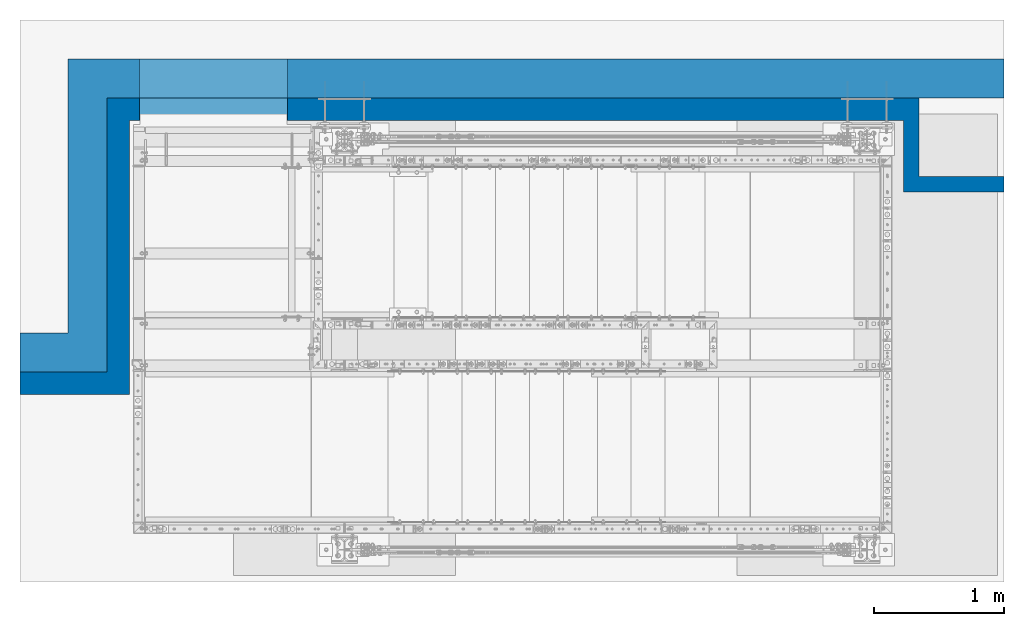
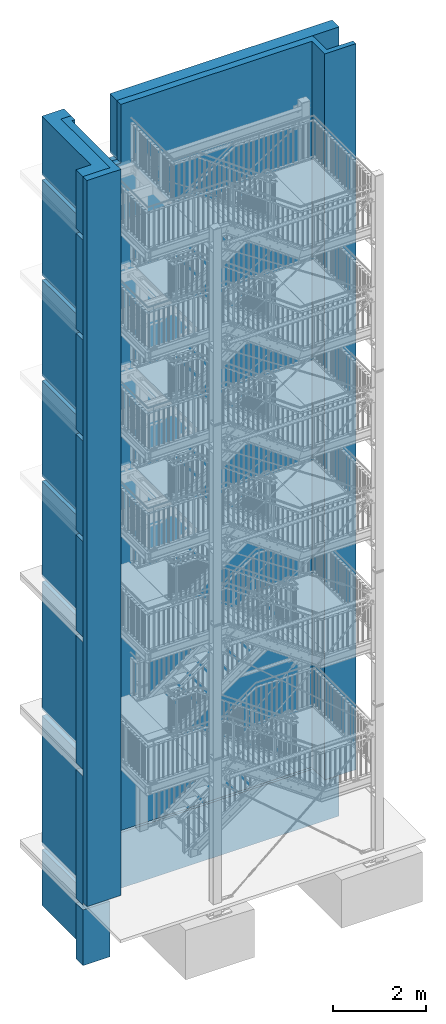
# One storey, part 231 of 825: 9 walls, 34 openings.
"""IFC2X3 building model written with IfcOpenShell, lengths in millimetres."""

from ifc_helpers import new_model, entity, si_unit, converted_unit, frame, origin, origin_with_axes, place, context, project, spatial, polyline, outline, extrude, material, layer, layer_set, element, save


model = new_model("IFC2X3")

# Units and contexts
model_context = context("Model", 3, precision=1e-09, world=origin_with_axes())
ifc_project = project(units=[si_unit("LENGTHUNIT", "METRE", prefix="MILLI"), si_unit("AREAUNIT", "SQUARE_METRE"), si_unit("VOLUMEUNIT", "CUBIC_METRE"), converted_unit("PLANEANGLEUNIT", "DEGREE", entity("IfcPlaneAngleMeasure", 0.01745329), si_unit("PLANEANGLEUNIT", "RADIAN"), dimensions=[0, 0, 0, 0, 0, 0, 0])], contexts=[model_context])

# Site, building, storey
site_placement = place(None, origin_with_axes())
site = spatial("IfcSite", under=ifc_project, at=site_placement, Name="Cnopf'sche Kinderklinik", CompositionType="ELEMENT")
building_placement = place(site_placement, origin_with_axes())
building = spatial("IfcBuilding", under=site, at=building_placement, Name="Struktur 1", CompositionType="ELEMENT")
storey_placement = place(building_placement, origin_with_axes())
storey = spatial("IfcBuildingStorey", under=building, at=storey_placement, Name="Default Storey", CompositionType="ELEMENT", Elevation=0.0)

# Wall, openings
ifc_material = material(Name="C25/30")
ifc_layer_1 = layer(ifc_material, 2272.0)
ifc_layer_set_1 = layer_set([ifc_layer_1], Name="C25/30")
wall_1_placement = place(None, frame((6142.06017303, 7831.735971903, 9870.0), z_axis=(0.0, -1.0, 0.0), x_axis=(1.0, 0.0, 0.0)))
wall_1 = element("IfcWall", 1, at=wall_1_placement, inside=storey, material=ifc_layer_set_1, Name="-", ObjectType="-", context=model_context, shape_type="SweptSolid", body=[
    extrude(outline(polyline([(-3774.653229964, -9500.0), (3774.653229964, -9500.0), (3774.653229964, 9500.0), (-3774.653229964, 9500.0), (-3774.653229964, -9500.0)])), origin_with_axes(), (0.0, 0.0, 1.0), 2272.0),
])
opening_1_placement = place(wall_1_placement, frame((0.0, -9500.1, 1136.0), z_axis=(0.0, 1.0, 0.0), x_axis=(1.0, 0.0, 0.0)))
element("IfcOpeningElement", 2, at=opening_1_placement, cuts=wall_1, ObjectType="Opening", context=model_context, shape_type="SweptSolid", body=[
    extrude(outline(polyline([(-4123.085438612, -964.0), (-3107.346770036, -964.0), (-3107.346770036, 1381.510287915), (-4123.085438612, 1381.510287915), (-4123.085438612, -964.0)])), origin(), (0.0, 0.0, 1.0), 19000.2),
])
opening_2_placement = place(wall_1_placement, frame((0.0, -9500.1, 1136.0), z_axis=(0.0, 1.0, 0.0), x_axis=(1.0, 0.0, 0.0)))
element("IfcOpeningElement", 3, at=opening_2_placement, cuts=wall_1, ObjectType="Opening", context=model_context, shape_type="SweptSolid", body=[
    extrude(outline(polyline([(-2935.347770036, -1467.876166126), (3002.654229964, -1467.876166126), (3002.654229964, 964.005), (-2935.347770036, 964.005), (-2935.347770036, -1467.876166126)])), origin(), (0.0, 0.0, 1.0), 19000.2),
])
opening_3_placement = place(wall_1_placement, frame((0.0, 0.0, -0.1), z_axis=(0.0, 0.0, 1.0), x_axis=(1.0, 0.0, 0.0)))
element("IfcOpeningElement", 4, at=opening_3_placement, cuts=wall_1, ObjectType="Opening", context=model_context, shape_type="SweptSolid", body=[
    extrude(outline(polyline([(-2857.347770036, -9570.001), (-1722.346770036, -9570.001), (-1722.346770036, -7289.999), (-2857.347770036, -7289.999), (-2857.347770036, -9570.001)])), origin(), (0.0, 0.0, 1.0), 2272.2),
])
opening_4_placement = place(wall_1_placement, frame((0.0, 0.0, -0.1), z_axis=(0.0, 0.0, 1.0), x_axis=(1.0, 0.0, 0.0)))
element("IfcOpeningElement", 5, at=opening_4_placement, cuts=wall_1, ObjectType="Opening", context=model_context, shape_type="SweptSolid", body=[
    extrude(outline(polyline([(-2857.347770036, -6023.001), (-1722.346770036, -6023.001), (-1722.346770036, -3762.998), (-2857.347770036, -3762.998), (-2857.347770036, -6023.001)])), origin(), (0.0, 0.0, 1.0), 2272.2),
])
opening_5_placement = place(wall_1_placement, frame((0.0, 0.0, -0.1), z_axis=(0.0, 0.0, 1.0), x_axis=(1.0, 0.0, 0.0)))
element("IfcOpeningElement", 6, at=opening_5_placement, cuts=wall_1, ObjectType="Opening", context=model_context, shape_type="SweptSolid", body=[
    extrude(outline(polyline([(-2857.347770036, -2550.001), (-1722.346770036, -2550.001), (-1722.346770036, -289.998), (-2857.347770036, -289.998), (-2857.347770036, -2550.001)])), origin(), (0.0, 0.0, 1.0), 2272.2),
])
opening_6_placement = place(wall_1_placement, frame((0.0, 0.0, -0.1), z_axis=(0.0, 0.0, 1.0), x_axis=(1.0, 0.0, 0.0)))
element("IfcOpeningElement", 7, at=opening_6_placement, cuts=wall_1, ObjectType="Opening", context=model_context, shape_type="SweptSolid", body=[
    extrude(outline(polyline([(-2857.347770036, 81.999), (-1722.346770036, 81.999), (-1722.346770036, 2342.002), (-2857.347770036, 2342.002), (-2857.347770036, 81.999)])), origin(), (0.0, 0.0, 1.0), 2272.2),
])
opening_7_placement = place(wall_1_placement, frame((0.0, 0.0, -0.1), z_axis=(0.0, 0.0, 1.0), x_axis=(1.0, 0.0, 0.0)))
element("IfcOpeningElement", 8, at=opening_7_placement, cuts=wall_1, ObjectType="Opening", context=model_context, shape_type="SweptSolid", body=[
    extrude(outline(polyline([(-2857.347770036, 2708.999), (-1722.346770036, 2708.999), (-1722.346770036, 4969.002), (-2857.347770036, 4969.002), (-2857.347770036, 2708.999)])), origin(), (0.0, 0.0, 1.0), 2272.2),
])
opening_8_placement = place(wall_1_placement, frame((0.0, 0.0, -0.1), z_axis=(0.0, 0.0, 1.0), x_axis=(1.0, 0.0, 0.0)))
element("IfcOpeningElement", 9, at=opening_8_placement, cuts=wall_1, ObjectType="Opening", context=model_context, shape_type="SweptSolid", body=[
    extrude(outline(polyline([(-2857.347770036, 5343.999), (-1722.346770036, 5343.999), (-1722.346770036, 7604.002), (-2857.347770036, 7604.002), (-2857.347770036, 5343.999)])), origin(), (0.0, 0.0, 1.0), 2272.2),
])
opening_9_placement = place(wall_1_placement, frame((0.0, 0.0, -0.1), z_axis=(0.0, 0.0, 1.0), x_axis=(1.0, 0.0, 0.0)))
element("IfcOpeningElement", 10, at=opening_9_placement, cuts=wall_1, ObjectType="Opening", context=model_context, shape_type="SweptSolid", body=[
    extrude(outline(polyline([(-2857.347770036, 7963.999), (-1722.346770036, 7963.999), (-1722.346770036, 10190.001), (-2857.347770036, 10190.001), (-2857.347770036, 7963.999)])), origin(), (0.0, 0.0, 1.0), 2272.2),
])
opening_10_placement = place(wall_1_placement, frame((0.0, -9500.1, 1136.0), z_axis=(0.0, 1.0, 0.0), x_axis=(1.0, 0.0, 0.0)))
element("IfcOpeningElement", 11, at=opening_10_placement, cuts=wall_1, ObjectType="Opening", context=model_context, shape_type="SweptSolid", body=[
    extrude(outline(polyline([(2960.822495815, -1467.876166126), (4107.704030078, -1467.876166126), (4107.704030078, 416.003), (2960.822495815, 416.003), (2960.822495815, -1467.876166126)])), origin(), (0.0, 0.0, 1.0), 19000.2),
])
opening_11_placement = place(wall_1_placement, frame((0.0, -9500.1, 1136.0), z_axis=(0.0, 1.0, 0.0), x_axis=(1.0, 0.0, 0.0)))
element("IfcOpeningElement", 12, at=opening_11_placement, cuts=wall_1, ObjectType="Opening", context=model_context, shape_type="SweptSolid", body=[
    extrude(outline(polyline([(3122.652229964, 536.0), (3912.658272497, 536.0), (3912.658272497, 1136.003), (3122.652229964, 1136.003), (3122.652229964, 536.0)])), origin(), (0.0, 0.0, 1.0), 19000.2),
])

ifc_layer_2 = layer(ifc_material, 2400.0)
ifc_layer_set_2 = layer_set([ifc_layer_2], Name="C25/30")
wall_2_placement = place(None, frame((6142.06017303, 8131.736971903, 1988.5), z_axis=(0.0, -1.0, 0.0), x_axis=(1.0, 0.0, 0.0)))
wall_2 = element("IfcWall", 13, at=wall_2_placement, inside=storey, material=ifc_layer_set_2, Name="-", ObjectType="-", context=model_context, shape_type="SweptSolid", body=[
    extrude(outline(polyline([(-3774.655, -1688.5), (3774.655, -1688.5), (3774.655, 1688.5), (-3774.655, 1688.5), (-3774.655, -1688.5)])), origin_with_axes(), (0.0, 0.0, 1.0), 2400.0),
])
opening_12_placement = place(wall_2_placement, frame((0.0, -1688.6, 1200.0), z_axis=(0.0, 1.0, 0.0), x_axis=(1.0, 0.0, 0.0)))
element("IfcOpeningElement", 14, at=opening_12_placement, cuts=wall_2, ObjectType="Opening", context=model_context, shape_type="SweptSolid", body=[
    extrude(outline(polyline([(-4066.743359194, -900.001), (-3407.345770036, -900.001), (-3407.345770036, 1540.537918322), (-4066.743359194, 1540.537918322), (-4066.743359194, -900.001)])), origin(), (0.0, 0.0, 1.0), 3377.2),
])
opening_13_placement = place(wall_2_placement, frame((0.0, -1688.6, 1200.0), z_axis=(0.0, 1.0, 0.0), x_axis=(1.0, 0.0, 0.0)))
element("IfcOpeningElement", 15, at=opening_13_placement, cuts=wall_2, ObjectType="Opening", context=model_context, shape_type="SweptSolid", body=[
    extrude(outline(polyline([(-3107.347770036, -1639.47409106), (4518.929305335, -1639.47409106), (4518.929305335, 900.001), (-3107.347770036, 900.001), (-3107.347770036, -1639.47409106)])), origin(), (0.0, 0.0, 1.0), 3377.2),
])
opening_14_placement = place(wall_2_placement, frame((0.0, 0.0, -0.1), z_axis=(0.0, 0.0, 1.0), x_axis=(1.0, 0.0, 0.0)))
element("IfcOpeningElement", 16, at=opening_14_placement, cuts=wall_2, ObjectType="Opening", context=model_context, shape_type="SweptSolid", body=[
    extrude(outline(polyline([(-2857.348770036, -1737.819976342), (-1722.346770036, -1737.819976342), (-1722.346770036, 591.501), (-2857.348770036, 591.501), (-2857.348770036, -1737.819976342)])), origin(), (0.0, 0.0, 1.0), 2400.2),
])

wall_3_placement = place(None, frame((6142.06017303, 8131.736971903, 5518.5), z_axis=(0.0, -1.0, 0.0), x_axis=(1.0, 0.0, 0.0)))
wall_3 = element("IfcWall", 17, at=wall_3_placement, inside=storey, material=ifc_layer_set_2, Name="-", ObjectType="-", context=model_context, shape_type="SweptSolid", body=[
    extrude(outline(polyline([(-3774.655, -1671.5), (3774.655, -1671.5), (3774.655, 1671.5), (-3774.655, 1671.5), (-3774.655, -1671.5)])), origin_with_axes(), (0.0, 0.0, 1.0), 2400.0),
])
opening_15_placement = place(wall_3_placement, frame((0.0, -1671.6, 1200.0), z_axis=(0.0, 1.0, 0.0), x_axis=(1.0, 0.0, 0.0)))
element("IfcOpeningElement", 18, at=opening_15_placement, cuts=wall_3, ObjectType="Opening", context=model_context, shape_type="SweptSolid", body=[
    extrude(outline(polyline([(-4066.743359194, -900.001), (-3407.345770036, -900.001), (-3407.345770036, 1540.537918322), (-4066.743359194, 1540.537918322), (-4066.743359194, -900.001)])), origin(), (0.0, 0.0, 1.0), 3343.2),
])
opening_16_placement = place(wall_3_placement, frame((0.0, -1671.6, 1200.0), z_axis=(0.0, 1.0, 0.0), x_axis=(1.0, 0.0, 0.0)))
element("IfcOpeningElement", 19, at=opening_16_placement, cuts=wall_3, ObjectType="Opening", context=model_context, shape_type="SweptSolid", body=[
    extrude(outline(polyline([(-3107.347770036, -1639.47409106), (4518.929305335, -1639.47409106), (4518.929305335, 900.001), (-3107.347770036, 900.001), (-3107.347770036, -1639.47409106)])), origin(), (0.0, 0.0, 1.0), 3343.2),
])
opening_17_placement = place(wall_3_placement, frame((0.0, 0.0, -0.1), z_axis=(0.0, 0.0, 1.0), x_axis=(1.0, 0.0, 0.0)))
element("IfcOpeningElement", 20, at=opening_17_placement, cuts=wall_3, ObjectType="Opening", context=model_context, shape_type="SweptSolid", body=[
    extrude(outline(polyline([(-2857.348770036, -1685.001), (-1722.346770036, -1685.001), (-1722.346770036, 588.501), (-2857.348770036, 588.501), (-2857.348770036, -1685.001)])), origin(), (0.0, 0.0, 1.0), 2400.2),
])

wall_4_placement = place(None, frame((6142.06017303, 8131.736971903, 8571.0), z_axis=(0.0, -1.0, 0.0), x_axis=(1.0, 0.0, 0.0)))
wall_4 = element("IfcWall", 21, at=wall_4_placement, inside=storey, material=ifc_layer_set_2, Name="-", ObjectType="-", context=model_context, shape_type="SweptSolid", body=[
    extrude(outline(polyline([(-3774.655, -1251.0), (3774.655, -1251.0), (3774.655, 1251.0), (-3774.655, 1251.0), (-3774.655, -1251.0)])), origin_with_axes(), (0.0, 0.0, 1.0), 2400.0),
])
opening_18_placement = place(wall_4_placement, frame((0.0, -1251.1, 1200.0), z_axis=(0.0, 1.0, 0.0), x_axis=(1.0, 0.0, 0.0)))
element("IfcOpeningElement", 22, at=opening_18_placement, cuts=wall_4, ObjectType="Opening", context=model_context, shape_type="SweptSolid", body=[
    extrude(outline(polyline([(-4066.743359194, -900.001), (-3407.345770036, -900.001), (-3407.345770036, 1540.537918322), (-4066.743359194, 1540.537918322), (-4066.743359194, -900.001)])), origin(), (0.0, 0.0, 1.0), 2502.2),
])
opening_19_placement = place(wall_4_placement, frame((0.0, -1251.1, 1200.0), z_axis=(0.0, 1.0, 0.0), x_axis=(1.0, 0.0, 0.0)))
element("IfcOpeningElement", 23, at=opening_19_placement, cuts=wall_4, ObjectType="Opening", context=model_context, shape_type="SweptSolid", body=[
    extrude(outline(polyline([(-3107.347770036, -1639.47409106), (4518.929305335, -1639.47409106), (4518.929305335, 900.001), (-3107.347770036, 900.001), (-3107.347770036, -1639.47409106)])), origin(), (0.0, 0.0, 1.0), 2502.2),
])
opening_20_placement = place(wall_4_placement, frame((0.0, 0.0, -0.1), z_axis=(0.0, 0.0, 1.0), x_axis=(1.0, 0.0, 0.0)))
element("IfcOpeningElement", 24, at=opening_20_placement, cuts=wall_4, ObjectType="Opening", context=model_context, shape_type="SweptSolid", body=[
    extrude(outline(polyline([(-2857.348770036, -1282.291642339), (-1722.346770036, -1282.291642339), (-1722.346770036, 1009.001), (-2857.348770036, 1009.001), (-2857.348770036, -1282.291642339)])), origin(), (0.0, 0.0, 1.0), 2400.2),
])

wall_5_placement = place(None, frame((6142.06017303, 8131.736971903, 11200.5), z_axis=(0.0, -1.0, 0.0), x_axis=(1.0, 0.0, 0.0)))
wall_5 = element("IfcWall", 25, at=wall_5_placement, inside=storey, material=ifc_layer_set_2, Name="-", ObjectType="-", context=model_context, shape_type="SweptSolid", body=[
    extrude(outline(polyline([(-3774.655, -1248.5), (3774.655, -1248.5), (3774.655, 1248.5), (-3774.655, 1248.5), (-3774.655, -1248.5)])), origin_with_axes(), (0.0, 0.0, 1.0), 2400.0),
])
opening_21_placement = place(wall_5_placement, frame((0.0, -1248.6, 1200.0), z_axis=(0.0, 1.0, 0.0), x_axis=(1.0, 0.0, 0.0)))
element("IfcOpeningElement", 26, at=opening_21_placement, cuts=wall_5, ObjectType="Opening", context=model_context, shape_type="SweptSolid", body=[
    extrude(outline(polyline([(-4066.743359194, -900.001), (-3407.345770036, -900.001), (-3407.345770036, 1540.537918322), (-4066.743359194, 1540.537918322), (-4066.743359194, -900.001)])), origin(), (0.0, 0.0, 1.0), 2497.2),
])
opening_22_placement = place(wall_5_placement, frame((0.0, -1248.6, 1200.0), z_axis=(0.0, 1.0, 0.0), x_axis=(1.0, 0.0, 0.0)))
element("IfcOpeningElement", 27, at=opening_22_placement, cuts=wall_5, ObjectType="Opening", context=model_context, shape_type="SweptSolid", body=[
    extrude(outline(polyline([(-3107.347770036, -1639.47409106), (4518.929305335, -1639.47409106), (4518.929305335, 900.001), (-3107.347770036, 900.001), (-3107.347770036, -1639.47409106)])), origin(), (0.0, 0.0, 1.0), 2497.2),
])
opening_23_placement = place(wall_5_placement, frame((0.0, 0.0, -0.1), z_axis=(0.0, 0.0, 1.0), x_axis=(1.0, 0.0, 0.0)))
element("IfcOpeningElement", 28, at=opening_23_placement, cuts=wall_5, ObjectType="Opening", context=model_context, shape_type="SweptSolid", body=[
    extrude(outline(polyline([(-2857.348770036, -1268.585579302), (-1722.346770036, -1268.585579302), (-1722.346770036, 1011.501), (-2857.348770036, 1011.501), (-2857.348770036, -1268.585579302)])), origin(), (0.0, 0.0, 1.0), 2400.2),
])

wall_6_placement = place(None, frame((6142.06017303, 8131.736971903, 13831.5), z_axis=(0.0, -1.0, 0.0), x_axis=(1.0, 0.0, 0.0)))
wall_6 = element("IfcWall", 29, at=wall_6_placement, inside=storey, material=ifc_layer_set_2, Name="-", ObjectType="-", context=model_context, shape_type="SweptSolid", body=[
    extrude(outline(polyline([(-3774.655, -1252.5), (3774.655, -1252.5), (3774.655, 1252.5), (-3774.655, 1252.5), (-3774.655, -1252.5)])), origin_with_axes(), (0.0, 0.0, 1.0), 2400.0),
])
opening_24_placement = place(wall_6_placement, frame((0.0, -1252.6, 1200.0), z_axis=(0.0, 1.0, 0.0), x_axis=(1.0, 0.0, 0.0)))
element("IfcOpeningElement", 30, at=opening_24_placement, cuts=wall_6, ObjectType="Opening", context=model_context, shape_type="SweptSolid", body=[
    extrude(outline(polyline([(-4066.743359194, -900.001), (-3407.345770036, -900.001), (-3407.345770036, 1540.537918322), (-4066.743359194, 1540.537918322), (-4066.743359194, -900.001)])), origin(), (0.0, 0.0, 1.0), 2505.2),
])
opening_25_placement = place(wall_6_placement, frame((0.0, -1252.6, 1200.0), z_axis=(0.0, 1.0, 0.0), x_axis=(1.0, 0.0, 0.0)))
element("IfcOpeningElement", 31, at=opening_25_placement, cuts=wall_6, ObjectType="Opening", context=model_context, shape_type="SweptSolid", body=[
    extrude(outline(polyline([(-3107.347770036, -1639.47409106), (4518.929305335, -1639.47409106), (4518.929305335, 900.001), (-3107.347770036, 900.001), (-3107.347770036, -1639.47409106)])), origin(), (0.0, 0.0, 1.0), 2505.2),
])
opening_26_placement = place(wall_6_placement, frame((0.0, 0.0, -0.1), z_axis=(0.0, 0.0, 1.0), x_axis=(1.0, 0.0, 0.0)))
element("IfcOpeningElement", 32, at=opening_26_placement, cuts=wall_6, ObjectType="Opening", context=model_context, shape_type="SweptSolid", body=[
    extrude(outline(polyline([(-2857.348770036, -1292.200434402), (-1722.346770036, -1292.200434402), (-1722.346770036, 1007.501), (-2857.348770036, 1007.501), (-2857.348770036, -1292.200434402)])), origin(), (0.0, 0.0, 1.0), 2400.2),
])

wall_7_placement = place(None, frame((6142.06017303, 8131.736971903, 18602.0), z_axis=(0.0, -1.0, 0.0), x_axis=(1.0, 0.0, 0.0)))
wall_7 = element("IfcWall", 33, at=wall_7_placement, inside=storey, material=ifc_layer_set_2, Name="-", ObjectType="-", context=model_context, shape_type="SweptSolid", body=[
    extrude(outline(polyline([(-3774.655, -768.0), (3774.655, -768.0), (3774.655, 768.0), (-3774.655, 768.0), (-3774.655, -768.0)])), origin_with_axes(), (0.0, 0.0, 1.0), 2400.0),
])
opening_27_placement = place(wall_7_placement, frame((0.0, -768.1, 1200.0), z_axis=(0.0, 1.0, 0.0), x_axis=(1.0, 0.0, 0.0)))
element("IfcOpeningElement", 34, at=opening_27_placement, cuts=wall_7, ObjectType="Opening", context=model_context, shape_type="SweptSolid", body=[
    extrude(outline(polyline([(-4066.743359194, -900.001), (-3407.345770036, -900.001), (-3407.345770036, 1540.537918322), (-4066.743359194, 1540.537918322), (-4066.743359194, -900.001)])), origin(), (0.0, 0.0, 1.0), 1536.2),
])
opening_28_placement = place(wall_7_placement, frame((0.0, -768.1, 1200.0), z_axis=(0.0, 1.0, 0.0), x_axis=(1.0, 0.0, 0.0)))
element("IfcOpeningElement", 35, at=opening_28_placement, cuts=wall_7, ObjectType="Opening", context=model_context, shape_type="SweptSolid", body=[
    extrude(outline(polyline([(-3107.347770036, -1639.47409106), (4518.929305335, -1639.47409106), (4518.929305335, 900.001), (-3107.347770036, 900.001), (-3107.347770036, -1639.47409106)])), origin(), (0.0, 0.0, 1.0), 1536.2),
])
opening_29_placement = place(wall_7_placement, frame((0.0, 0.0, -0.1), z_axis=(0.0, 0.0, 1.0), x_axis=(1.0, 0.0, 0.0)))
element("IfcOpeningElement", 36, at=opening_29_placement, cuts=wall_7, ObjectType="Opening", context=model_context, shape_type="SweptSolid", body=[
    extrude(outline(polyline([(-2857.348770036, -785.001), (-1722.346770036, -785.001), (-1722.346770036, 1475.001), (-2857.348770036, 1475.001), (-2857.348770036, -785.001)])), origin(), (0.0, 0.0, 1.0), 2400.2),
])

wall_8_placement = place(None, frame((6142.06017303, 8131.736971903, 16459.0), z_axis=(0.0, -1.0, 0.0), x_axis=(1.0, 0.0, 0.0)))
wall_8 = element("IfcWall", 37, at=wall_8_placement, inside=storey, material=ifc_layer_set_2, Name="-", ObjectType="-", context=model_context, shape_type="SweptSolid", body=[
    extrude(outline(polyline([(-3774.655, -1245.0), (3774.655, -1245.0), (3774.655, 1245.0), (-3774.655, 1245.0), (-3774.655, -1245.0)])), origin_with_axes(), (0.0, 0.0, 1.0), 2400.0),
])
opening_30_placement = place(wall_8_placement, frame((0.0, -1245.1, 1200.0), z_axis=(0.0, 1.0, 0.0), x_axis=(1.0, 0.0, 0.0)))
element("IfcOpeningElement", 38, at=opening_30_placement, cuts=wall_8, ObjectType="Opening", context=model_context, shape_type="SweptSolid", body=[
    extrude(outline(polyline([(-4066.743359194, -900.001), (-3407.345770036, -900.001), (-3407.345770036, 1540.537918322), (-4066.743359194, 1540.537918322), (-4066.743359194, -900.001)])), origin(), (0.0, 0.0, 1.0), 2490.2),
])
opening_31_placement = place(wall_8_placement, frame((0.0, -1245.1, 1200.0), z_axis=(0.0, 1.0, 0.0), x_axis=(1.0, 0.0, 0.0)))
element("IfcOpeningElement", 39, at=opening_31_placement, cuts=wall_8, ObjectType="Opening", context=model_context, shape_type="SweptSolid", body=[
    extrude(outline(polyline([(-3107.347770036, -1639.47409106), (4518.929305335, -1639.47409106), (4518.929305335, 900.001), (-3107.347770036, 900.001), (-3107.347770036, -1639.47409106)])), origin(), (0.0, 0.0, 1.0), 2490.2),
])
opening_32_placement = place(wall_8_placement, frame((0.0, 0.0, -0.1), z_axis=(0.0, 0.0, 1.0), x_axis=(1.0, 0.0, 0.0)))
element("IfcOpeningElement", 40, at=opening_32_placement, cuts=wall_8, ObjectType="Opening", context=model_context, shape_type="SweptSolid", body=[
    extrude(outline(polyline([(-2857.348770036, -1269.927439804), (-1722.346770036, -1269.927439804), (-1722.346770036, 1015.001), (-2857.348770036, 1015.001), (-2857.348770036, -1269.927439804)])), origin(), (0.0, 0.0, 1.0), 2400.2),
])

wall_9_placement = place(None, frame((6142.06017303, 8131.736971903, -550.0), z_axis=(0.0, -1.0, 0.0), x_axis=(1.0, 0.0, 0.0)))
wall_9 = element("IfcWall", 41, at=wall_9_placement, inside=storey, material=ifc_layer_set_2, Name="-", ObjectType="-", context=model_context, shape_type="SweptSolid", body=[
    extrude(outline(polyline([(-3774.653229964, -730.0), (3774.653229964, -730.0), (3774.653229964, 730.0), (-3774.653229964, 730.0), (-3774.653229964, -730.0)])), origin_with_axes(), (0.0, 0.0, 1.0), 2400.0),
])
opening_33_placement = place(wall_9_placement, frame((0.0, -730.1, 1200.0), z_axis=(0.0, 1.0, 0.0), x_axis=(1.0, 0.0, 0.0)))
element("IfcOpeningElement", 42, at=opening_33_placement, cuts=wall_9, ObjectType="Opening", context=model_context, shape_type="SweptSolid", body=[
    extrude(outline(polyline([(-4066.743359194, -900.001), (-3407.345770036, -900.001), (-3407.345770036, 1540.537918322), (-4066.743359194, 1540.537918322), (-4066.743359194, -900.001)])), origin(), (0.0, 0.0, 1.0), 1460.2),
])
opening_34_placement = place(wall_9_placement, frame((0.0, -730.1, 1200.0), z_axis=(0.0, 1.0, 0.0), x_axis=(1.0, 0.0, 0.0)))
element("IfcOpeningElement", 43, at=opening_34_placement, cuts=wall_9, ObjectType="Opening", context=model_context, shape_type="SweptSolid", body=[
    extrude(outline(polyline([(-3107.347770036, -1639.47409106), (4518.929305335, -1639.47409106), (4518.929305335, 900.001), (-3107.347770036, 900.001), (-3107.347770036, -1639.47409106)])), origin(), (0.0, 0.0, 1.0), 1460.2),
])

save(model, "model.ifc")
